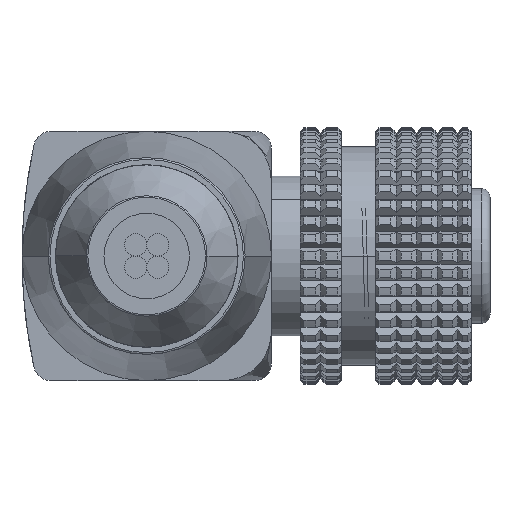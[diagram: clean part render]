
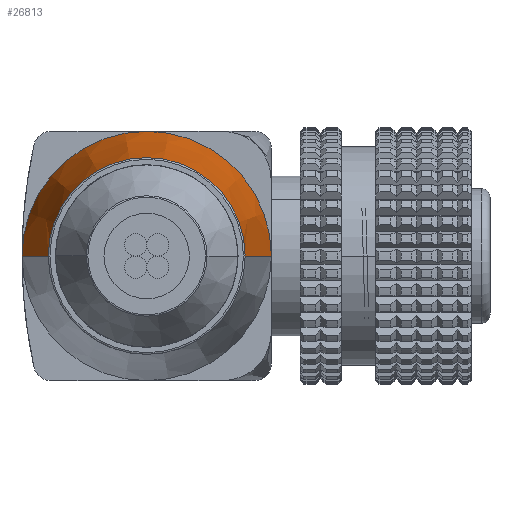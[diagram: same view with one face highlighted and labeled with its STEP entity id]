
A CAD part, front view. The second image highlights one B-rep face of the part: STEP entity #26813.
In plain terms, the highlighted conical face has half-angle 7.743 degrees and reference radius 6.531 mm.
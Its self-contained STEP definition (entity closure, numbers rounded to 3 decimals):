
#87=CARTESIAN_POINT('',(0.,-7.3,0.));
#88=DIRECTION('',(0.,-1.,0.));
#89=DIRECTION('',(1.,0.,0.));
#90=AXIS2_PLACEMENT_3D('',#87,#88,#89);
#96=CARTESIAN_POINT('',(0.,-18.613,0.));
#97=DIRECTION('',(0.,1.,0.));
#98=DIRECTION('',(-1.,0.,0.));
#99=AXIS2_PLACEMENT_3D('',#96,#97,#98);
#116=DIRECTION('',(0.135,0.991,0.));
#117=VECTOR('',#116,11.418);
#118=CARTESIAN_POINT('',(5.762,-18.613,
0.));
#119=LINE('',#118,#117);
#120=DIRECTION('',(-0.135,0.991,0.));
#121=VECTOR('',#120,11.418);
#122=CARTESIAN_POINT('',(-5.762,-18.613,
0.));
#123=LINE('',#122,#121);
#483=CARTESIAN_POINT('',(0.,-7.3,0.));
#484=DIRECTION('',(0.,-1.,0.));
#485=DIRECTION('',(0.,0.,1.));
#486=AXIS2_PLACEMENT_3D('',#483,#484,#485);
#22244=CARTESIAN_POINT('',(7.3,-7.3,0.));
#22245=CARTESIAN_POINT('',(0.,-7.3,7.3));
#22246=VERTEX_POINT('',#22244);
#22247=VERTEX_POINT('',#22245);
#22248=CARTESIAN_POINT('',(-7.3,-7.3,0.));
#22249=VERTEX_POINT('',#22248);
#22282=CARTESIAN_POINT('',(5.762,-18.613,0.));
#22283=CARTESIAN_POINT('',(-5.762,-18.613,0.));
#22284=VERTEX_POINT('',#22282);
#22285=VERTEX_POINT('',#22283);
#26797=CARTESIAN_POINT('',(0.,-12.957,0.));
#26798=DIRECTION('',(0.,1.,0.));
#26799=DIRECTION('',(1.,0.,0.));
#26800=AXIS2_PLACEMENT_3D('',#26797,#26798,#26799);
#26801=CONICAL_SURFACE('',#26800,6.531,7.743);
#26803=ORIENTED_EDGE('',*,*,#26802,.F.);
#26805=ORIENTED_EDGE('',*,*,#26804,.T.);
#26807=ORIENTED_EDGE('',*,*,#26806,.F.);
#26808=ORIENTED_EDGE('',*,*,#26790,.F.);
#26810=ORIENTED_EDGE('',*,*,#26809,.F.);
#26811=EDGE_LOOP('',(#26803,#26805,#26807,#26808,#26810));
#26812=FACE_OUTER_BOUND('',#26811,.F.);
#26813=ADVANCED_FACE('',(#26812),#26801,.T.);
#91=CIRCLE('',#90,7.3);
#100=CIRCLE('',#99,5.762);
#487=CIRCLE('',#486,7.3);
#26790=EDGE_CURVE('',#22246,#22247,#91,.T.);
#26802=EDGE_CURVE('',#22285,#22284,#100,.T.);
#26804=EDGE_CURVE('',#22285,#22249,#123,.T.);
#26806=EDGE_CURVE('',#22247,#22249,#487,.T.);
#26809=EDGE_CURVE('',#22284,#22246,#119,.T.);
